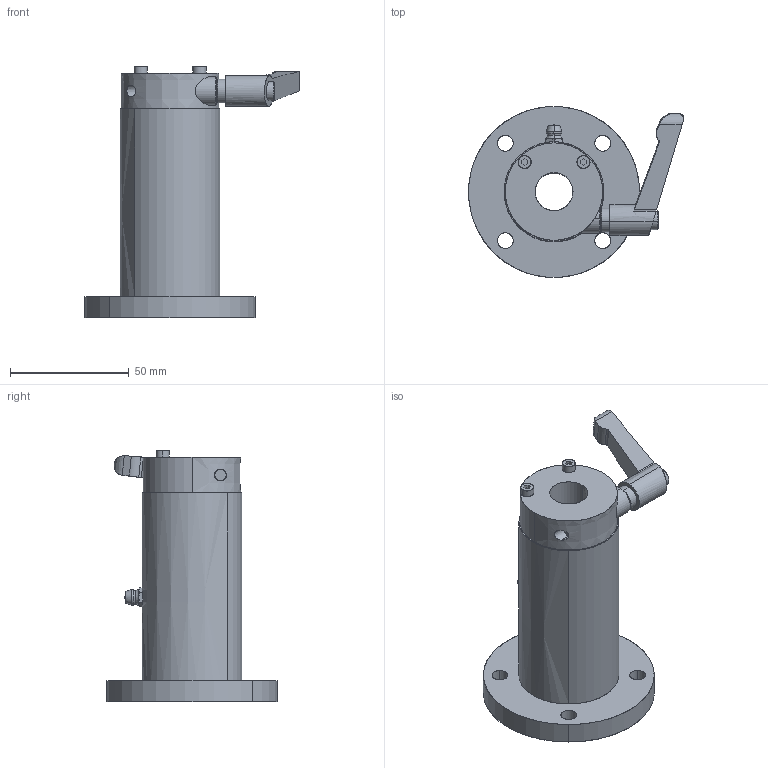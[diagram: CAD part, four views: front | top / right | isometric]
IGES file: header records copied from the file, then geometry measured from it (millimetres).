
Start section: SolidWorks IGES file using analytic representation for surfaces
Global section: file name: C:\Users\yamad\Desktop\IGES\LFW16-OH-C.IGS; native system: SolidWorks 2019; preprocessor: SolidWorks 2019; author: yamad; date: 230626.165756; units: millimetre
Bounding box: 90.5 x 72 x 106 mm (x, y, z)
Surface area: 38428.1 mm2 (no closed solid volume)
Topology: 0 solids, 0 shells, 224 faces, 4935 edges, 4933 vertices
Faces by surface type: bspline 120, revolution 104
